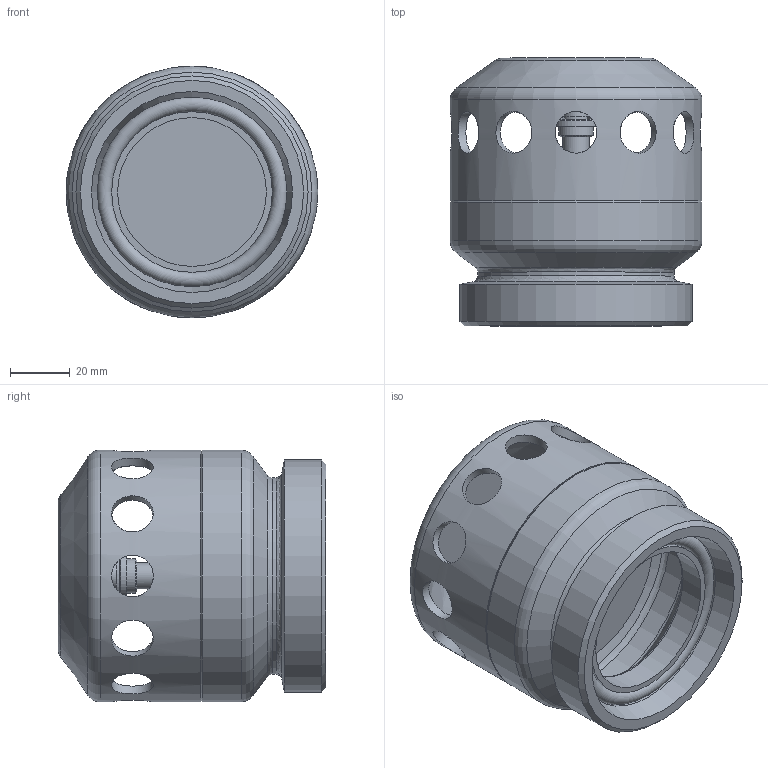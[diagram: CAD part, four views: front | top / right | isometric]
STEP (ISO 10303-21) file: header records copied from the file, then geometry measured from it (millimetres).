
FILE_DESCRIPTION((''),'2;1');
FILE_NAME('K:\2013 konstrukce\5xxxx\53380-Podtlakový ventil\53380-050.stp','2021-01-22T08:55:59',('konstrukce3'),(''),'Autodesk Inventor 2010','Autodesk Inventor 2010','');
FILE_SCHEMA(('AUTOMOTIVE_DESIGN { 1 0 10303 214 1 1 1 1 }'));
Length unit declared in the file: millimetre
Products named in the file (1): Součást13
Bounding box: 84.6 x 90 x 84.6 mm (x, y, z)
Volume: 155565.8 mm3; surface area: 79798 mm2
Topology: 2 solids, 5 shells, 230 faces, 531 edges, 314 vertices
Faces by surface type: cylinder 88, torus 52, plane 52, cone 23, bspline 15
Full cylindrical faces by diameter (mm): 8.9 x2, 9.1 x2, 11.5 x2, 14 x12, 15 x1, 50 x1, 54 x2, 57 x1, 61 x1, 63 x1, 63.8 x1, 64 x1, 66 x1, 68 x1, 75.5 x2, 77.8 x2, 78 x1, 78.6 x1, 80 x1, 81.8 x2, 82 x2, 84.6 x2
Entity records: 7450 total; most frequent: CARTESIAN_POINT 2304, DIRECTION 1100, ORIENTED_EDGE 836, AXIS2_PLACEMENT_3D 502, EDGE_CURVE 418, EDGE_LOOP 369, VERTEX_POINT 293, CIRCLE 286
